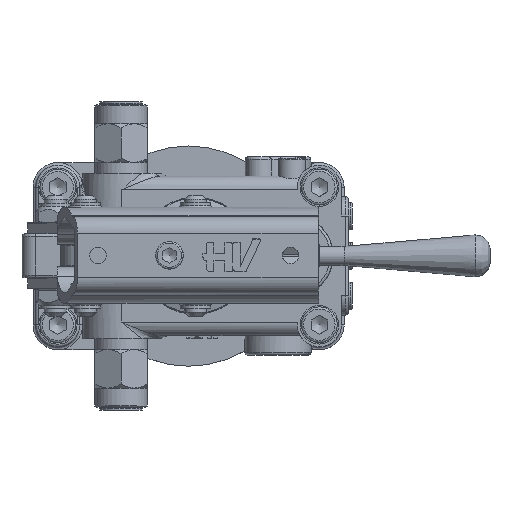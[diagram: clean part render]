
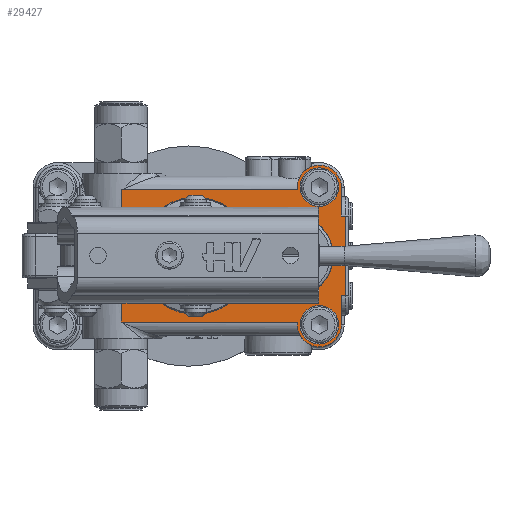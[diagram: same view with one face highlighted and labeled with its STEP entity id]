
A CAD part, top view. The second image highlights one B-rep face of the part: STEP entity #29427.
In plain terms, the highlighted planar face has unit normal (0, 0, 1).
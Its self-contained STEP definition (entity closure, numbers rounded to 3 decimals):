
#27728=CARTESIAN_POINT('',(96.,58.,43.));
#27729=VERTEX_POINT('',#27728);
#27737=CARTESIAN_POINT('',(96.,59.,43.));
#27738=VERTEX_POINT('',#27737);
#27739=CARTESIAN_POINT('',(96.,58.,43.));
#27740=DIRECTION('',(0.0,1.0,0.0));
#27741=VECTOR('',#27740,1.);
#27742=LINE('',#27739,#27741);
#27743=EDGE_CURVE('',#27729,#27738,#27742,.T.);
#27759=CARTESIAN_POINT('',(96.0,10.0,43.));
#27760=VERTEX_POINT('',#27759);
#27770=CARTESIAN_POINT('',(96.0,9.,43.));
#27771=VERTEX_POINT('',#27770);
#27778=CARTESIAN_POINT('',(96.,9.,43.));
#27779=DIRECTION('',(0.0,1.0,0.0));
#27780=VECTOR('',#27779,1.);
#27781=LINE('',#27778,#27780);
#27782=EDGE_CURVE('',#27771,#27760,#27781,.T.);
#27941=CARTESIAN_POINT('',(32.,44.122,43.));
#27942=VERTEX_POINT('',#27941);
#27991=CARTESIAN_POINT('',(33.732,41.0,43.));
#27992=VERTEX_POINT('',#27991);
#28000=CARTESIAN_POINT('',(33.732,41.0,43.));
#28001=CARTESIAN_POINT('',(33.732,41.528,43.));
#28002=CARTESIAN_POINT('',(33.438,42.767,43.));
#28003=CARTESIAN_POINT('',(32.582,43.719,43.));
#28004=CARTESIAN_POINT('',(32.,44.122,43.));
#28005=B_SPLINE_CURVE_WITH_KNOTS('',3,(#28000,#28001,#28002,#28003,#28004),.UNSPECIFIED.,.F.,.U.,(4,1,4),(2.696,2.855,3.066),.UNSPECIFIED.);
#28006=EDGE_CURVE('',#27992,#27942,#28005,.T.);
#28018=CARTESIAN_POINT('',(33.732,27.,43.));
#28019=VERTEX_POINT('',#28018);
#28027=CARTESIAN_POINT('',(33.732,27.,43.));
#28028=DIRECTION('',(0.0,1.0,0.0));
#28029=VECTOR('',#28028,14.);
#28030=LINE('',#28027,#28029);
#28031=EDGE_CURVE('',#28019,#27992,#28030,.T.);
#28064=CARTESIAN_POINT('',(32.,23.878,43.));
#28065=VERTEX_POINT('',#28064);
#28073=CARTESIAN_POINT('',(32.,23.878,43.));
#28074=CARTESIAN_POINT('',(32.433,24.178,43.));
#28075=CARTESIAN_POINT('',(33.336,25.067,43.));
#28076=CARTESIAN_POINT('',(33.732,26.29,43.0));
#28077=CARTESIAN_POINT('',(33.732,27.,43.));
#28078=B_SPLINE_CURVE_WITH_KNOTS('',3,(#28073,#28074,#28075,#28076,#28077),.UNSPECIFIED.,.F.,.U.,(4,1,4),(2.696,2.854,3.065),.UNSPECIFIED.);
#28079=EDGE_CURVE('',#28065,#28019,#28078,.T.);
#28808=CARTESIAN_POINT('',(112.0,59.,43.));
#28809=VERTEX_POINT('',#28808);
#28816=CARTESIAN_POINT('',(112.,48.5,43.));
#28817=VERTEX_POINT('',#28816);
#28818=CARTESIAN_POINT('',(112.0,59.,43.));
#28819=DIRECTION('',(0.0,-1.0,0.0));
#28820=VECTOR('',#28819,10.5);
#28821=LINE('',#28818,#28820);
#28822=EDGE_CURVE('',#28809,#28817,#28821,.T.);
#28937=CARTESIAN_POINT('',(112.0,19.5,43.));
#28938=VERTEX_POINT('',#28937);
#28946=CARTESIAN_POINT('',(112.,9.,43.));
#28947=VERTEX_POINT('',#28946);
#28948=CARTESIAN_POINT('',(112.,19.5,43.));
#28949=DIRECTION('',(0.0,-1.0,0.0));
#28950=VECTOR('',#28949,10.5);
#28951=LINE('',#28948,#28950);
#28952=EDGE_CURVE('',#28938,#28947,#28951,.T.);
#29284=CARTESIAN_POINT('',(113.5,48.5,43.));
#29285=VERTEX_POINT('',#29284);
#29295=CARTESIAN_POINT('',(112.,48.5,43.));
#29296=DIRECTION('',(1.0,0.0,0.0));
#29297=VECTOR('',#29296,1.5);
#29298=LINE('',#29295,#29297);
#29299=EDGE_CURVE('',#28817,#29285,#29298,.T.);
#29304=CARTESIAN_POINT('',(104.,34.,43.));
#29305=DIRECTION('',(0.0,0.0,1.0));
#29306=DIRECTION('',(1.0,0.0,0.0));
#29307=AXIS2_PLACEMENT_3D('',#29304,#29305,#29306);
#29308=PLANE('',#29307);
#29309=CARTESIAN_POINT('',(113.5,19.5,43.));
#29310=VERTEX_POINT('',#29309);
#29311=CARTESIAN_POINT('',(113.5,48.5,43.));
#29312=DIRECTION('',(0.0,-1.0,0.0));
#29313=VECTOR('',#29312,29.);
#29314=LINE('',#29311,#29313);
#29315=EDGE_CURVE('',#29285,#29310,#29314,.T.);
#29316=ORIENTED_EDGE('',*,*,#29315,.F.);
#29317=ORIENTED_EDGE('',*,*,#29299,.F.);
#29318=ORIENTED_EDGE('',*,*,#28822,.F.);
#29319=CARTESIAN_POINT('',(104.,59.,43.));
#29320=DIRECTION('',(0.0,0.0,-1.0));
#29321=DIRECTION('',(1.0,0.0,0.0));
#29322=AXIS2_PLACEMENT_3D('',#29319,#29320,#29321);
#29323=CIRCLE('',#29322,8.0);
#29324=EDGE_CURVE('',#27738,#28809,#29323,.T.);
#29325=ORIENTED_EDGE('',*,*,#29324,.F.);
#29326=ORIENTED_EDGE('',*,*,#27743,.F.);
#29327=CARTESIAN_POINT('',(32.,58.,43.));
#29328=VERTEX_POINT('',#29327);
#29329=CARTESIAN_POINT('',(96.,58.,43.));
#29330=DIRECTION('',(-1.0,0.0,0.0));
#29331=VECTOR('',#29330,64.);
#29332=LINE('',#29329,#29331);
#29333=EDGE_CURVE('',#27729,#29328,#29332,.T.);
#29334=ORIENTED_EDGE('',*,*,#29333,.T.);
#29335=CARTESIAN_POINT('',(32.0,44.122,43.0));
#29336=DIRECTION('',(0.0,1.0,0.0));
#29337=VECTOR('',#29336,13.878);
#29338=LINE('',#29335,#29337);
#29339=EDGE_CURVE('',#27942,#29328,#29338,.T.);
#29340=ORIENTED_EDGE('',*,*,#29339,.F.);
#29341=ORIENTED_EDGE('',*,*,#28006,.F.);
#29342=ORIENTED_EDGE('',*,*,#28031,.F.);
#29343=ORIENTED_EDGE('',*,*,#28079,.F.);
#29344=CARTESIAN_POINT('',(32.,10.0,43.));
#29345=VERTEX_POINT('',#29344);
#29346=CARTESIAN_POINT('',(32.0,10.,43.0));
#29347=DIRECTION('',(0.0,1.0,0.0));
#29348=VECTOR('',#29347,13.878);
#29349=LINE('',#29346,#29348);
#29350=EDGE_CURVE('',#29345,#28065,#29349,.T.);
#29351=ORIENTED_EDGE('',*,*,#29350,.F.);
#29352=CARTESIAN_POINT('',(96.0,10.0,43.));
#29353=DIRECTION('',(-1.0,0.0,0.0));
#29354=VECTOR('',#29353,64.);
#29355=LINE('',#29352,#29354);
#29356=EDGE_CURVE('',#27760,#29345,#29355,.T.);
#29357=ORIENTED_EDGE('',*,*,#29356,.F.);
#29358=ORIENTED_EDGE('',*,*,#27782,.F.);
#29359=CARTESIAN_POINT('',(104.0,9.,43.));
#29360=DIRECTION('',(0.0,0.0,-1.0));
#29361=DIRECTION('',(-1.0,0.0,0.0));
#29362=AXIS2_PLACEMENT_3D('',#29359,#29360,#29361);
#29363=CIRCLE('',#29362,8.0);
#29364=EDGE_CURVE('',#28947,#27771,#29363,.T.);
#29365=ORIENTED_EDGE('',*,*,#29364,.F.);
#29366=ORIENTED_EDGE('',*,*,#28952,.F.);
#29367=CARTESIAN_POINT('',(112.0,19.5,43.));
#29368=DIRECTION('',(1.0,0.0,0.0));
#29369=VECTOR('',#29368,1.5);
#29370=LINE('',#29367,#29369);
#29371=EDGE_CURVE('',#28938,#29310,#29370,.T.);
#29372=ORIENTED_EDGE('',*,*,#29371,.T.);
#29373=EDGE_LOOP('',(#29316,#29317,#29318,#29325,#29326,#29334,#29340,#29341,#29342,#29343,#29351,#29357,#29358,#29365,#29366,#29372));
#29374=FACE_OUTER_BOUND('',#29373,.T.);
#29375=CARTESIAN_POINT('',(67.404,51.042,43.));
#29376=VERTEX_POINT('',#29375);
#29377=CARTESIAN_POINT('',(59.,34.0,43.));
#29378=DIRECTION('',(0.,0.,-1.0));
#29379=DIRECTION('',(-0.442,-0.897,0.));
#29380=AXIS2_PLACEMENT_3D('',#29377,#29378,#29379);
#29381=CIRCLE('',#29380,19.002);
#29382=EDGE_CURVE('',#29376,#29376,#29381,.T.);
#29383=ORIENTED_EDGE('',*,*,#29382,.T.);
#29384=EDGE_LOOP('',(#29383));
#29385=FACE_BOUND('',#29384,.T.);
#29386=CARTESIAN_POINT('',(111.,59.,43.));
#29387=VERTEX_POINT('',#29386);
#29388=CARTESIAN_POINT('',(104.,59.,43.));
#29389=DIRECTION('',(0.0,0.0,-1.0));
#29390=DIRECTION('',(1.0,0.0,0.0));
#29391=AXIS2_PLACEMENT_3D('',#29388,#29389,#29390);
#29392=CIRCLE('',#29391,7.);
#29393=EDGE_CURVE('',#29387,#29387,#29392,.T.);
#29394=ORIENTED_EDGE('',*,*,#29393,.T.);
#29395=EDGE_LOOP('',(#29394));
#29396=FACE_BOUND('',#29395,.T.);
#29397=CARTESIAN_POINT('',(111.0,9.,43.));
#29398=VERTEX_POINT('',#29397);
#29399=CARTESIAN_POINT('',(104.0,9.,43.));
#29400=DIRECTION('',(0.0,0.0,-1.0));
#29401=DIRECTION('',(1.0,0.0,0.0));
#29402=AXIS2_PLACEMENT_3D('',#29399,#29400,#29401);
#29403=CIRCLE('',#29402,7.);
#29404=EDGE_CURVE('',#29398,#29398,#29403,.T.);
#29405=ORIENTED_EDGE('',*,*,#29404,.T.);
#29406=EDGE_LOOP('',(#29405));
#29407=FACE_BOUND('',#29406,.T.);
#29408=CARTESIAN_POINT('',(83.0,44.198,43.));
#29409=VERTEX_POINT('',#29408);
#29410=CARTESIAN_POINT('',(83.0,23.802,43.));
#29411=VERTEX_POINT('',#29410);
#29412=CARTESIAN_POINT('',(94.,34.0,43.));
#29413=DIRECTION('',(0.0,0.0,-1.0));
#29414=DIRECTION('',(-1.0,0.0,0.0));
#29415=AXIS2_PLACEMENT_3D('',#29412,#29413,#29414);
#29416=CIRCLE('',#29415,15.0);
#29417=EDGE_CURVE('',#29409,#29411,#29416,.T.);
#29418=ORIENTED_EDGE('',*,*,#29417,.T.);
#29419=CARTESIAN_POINT('',(83.0,23.802,43.));
#29420=DIRECTION('',(0.0,1.0,0.0));
#29421=VECTOR('',#29420,20.396);
#29422=LINE('',#29419,#29421);
#29423=EDGE_CURVE('',#29411,#29409,#29422,.T.);
#29424=ORIENTED_EDGE('',*,*,#29423,.T.);
#29425=EDGE_LOOP('',(#29418,#29424));
#29426=FACE_BOUND('',#29425,.T.);
#29427=ADVANCED_FACE('',(#29374,#29385,#29396,#29407,#29426),#29308,.T.);
